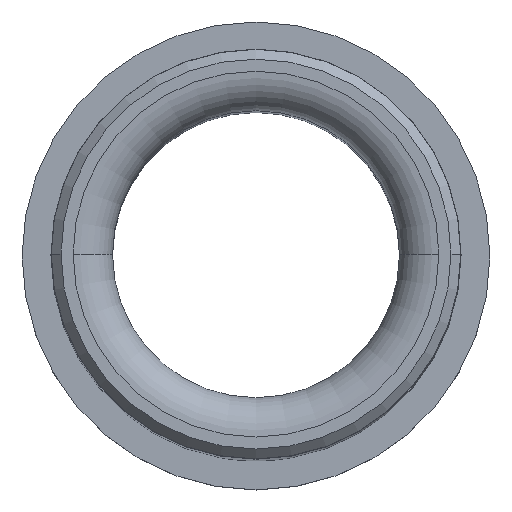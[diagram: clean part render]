
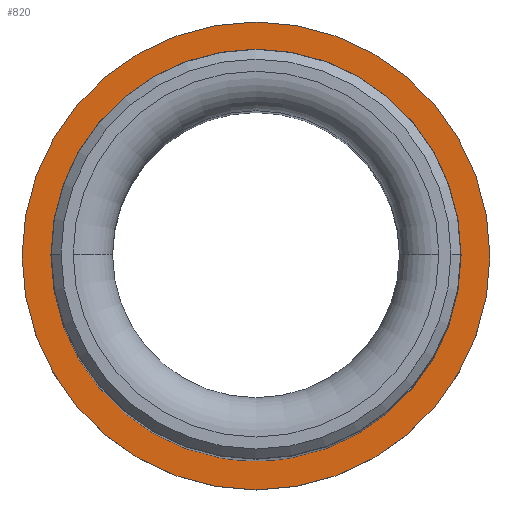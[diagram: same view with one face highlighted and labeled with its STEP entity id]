
A CAD part, top view. The second image highlights one B-rep face of the part: STEP entity #820.
In plain terms, the highlighted planar face has unit normal (0, 0, 1).
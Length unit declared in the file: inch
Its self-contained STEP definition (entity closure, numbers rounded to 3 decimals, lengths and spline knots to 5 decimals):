
#103 = CIRCLE ( 'NONE', #730, 0.7135 ) ;
#119 = FACE_BOUND ( 'NONE', #230, .T. ) ;
#150 = DIRECTION ( 'NONE',  ( -1., 0., 0. ) ) ;
#165 = ORIENTED_EDGE ( 'NONE', *, *, #632, .F. ) ;
#204 = PLANE ( 'NONE',  #593 ) ;
#206 = CIRCLE ( 'NONE', #641, 0.62525 ) ;
#219 = VERTEX_POINT ( 'NONE', #240 ) ;
#230 = EDGE_LOOP ( 'NONE', ( #677, #576 ) ) ;
#238 = DIRECTION ( 'NONE',  ( 0., 0., -1. ) ) ;
#240 = CARTESIAN_POINT ( 'NONE',  ( 0.62525, 0., 0.187 ) ) ;
#260 = VERTEX_POINT ( 'NONE', #566 ) ;
#270 = EDGE_CURVE ( 'NONE', #219, #260, #206, .T. ) ;
#271 = CARTESIAN_POINT ( 'NONE',  ( 0., 0., 0.187 ) ) ;
#299 = EDGE_CURVE ( 'NONE', #453, #355, #103, .T. ) ;
#305 = DIRECTION ( 'NONE',  ( -1., 0., 0. ) ) ;
#310 = DIRECTION ( 'NONE',  ( 0., 0., -1. ) ) ;
#328 = CIRCLE ( 'NONE', #448, 0.62525 ) ;
#355 = VERTEX_POINT ( 'NONE', #554 ) ;
#388 = CARTESIAN_POINT ( 'NONE',  ( 0., 0., 0.187 ) ) ;
#448 = AXIS2_PLACEMENT_3D ( 'NONE', #477, #745, #150 ) ;
#453 = VERTEX_POINT ( 'NONE', #588 ) ;
#458 = FACE_OUTER_BOUND ( 'NONE', #645, .T. ) ;
#462 = DIRECTION ( 'NONE',  ( -1., 0., 0. ) ) ;
#477 = CARTESIAN_POINT ( 'NONE',  ( 0., 0., 0.187 ) ) ;
#479 = EDGE_CURVE ( 'NONE', #260, #219, #328, .T. ) ;
#550 = ORIENTED_EDGE ( 'NONE', *, *, #299, .F. ) ;
#554 = CARTESIAN_POINT ( 'NONE',  ( 0.7135, 0., 0.187 ) ) ;
#566 = CARTESIAN_POINT ( 'NONE',  ( -0.62525, 0., 0.187 ) ) ;
#574 = CIRCLE ( 'NONE', #713, 0.7135 ) ;
#576 = ORIENTED_EDGE ( 'NONE', *, *, #270, .T. ) ;
#588 = CARTESIAN_POINT ( 'NONE',  ( -0.7135, 0., 0.187 ) ) ;
#593 = AXIS2_PLACEMENT_3D ( 'NONE', #271, #661, #733 ) ;
#632 = EDGE_CURVE ( 'NONE', #355, #453, #574, .T. ) ;
#641 = AXIS2_PLACEMENT_3D ( 'NONE', #835, #310, #305 ) ;
#645 = EDGE_LOOP ( 'NONE', ( #550, #165 ) ) ;
#661 = DIRECTION ( 'NONE',  ( 0., 0., -1. ) ) ;
#677 = ORIENTED_EDGE ( 'NONE', *, *, #479, .T. ) ;
#700 = DIRECTION ( 'NONE',  ( -1., 0., 0. ) ) ;
#713 = AXIS2_PLACEMENT_3D ( 'NONE', #388, #787, #462 ) ;
#730 = AXIS2_PLACEMENT_3D ( 'NONE', #771, #238, #700 ) ;
#733 = DIRECTION ( 'NONE',  ( -1., 0., 0. ) ) ;
#745 = DIRECTION ( 'NONE',  ( 0., 0., -1. ) ) ;
#771 = CARTESIAN_POINT ( 'NONE',  ( 0., 0., 0.187 ) ) ;
#787 = DIRECTION ( 'NONE',  ( 0., 0., -1. ) ) ;
#820 = ADVANCED_FACE ( 'NONE', ( #458, #119 ), #204, .F. ) ;
#835 = CARTESIAN_POINT ( 'NONE',  ( 0., 0., 0.187 ) ) ;
